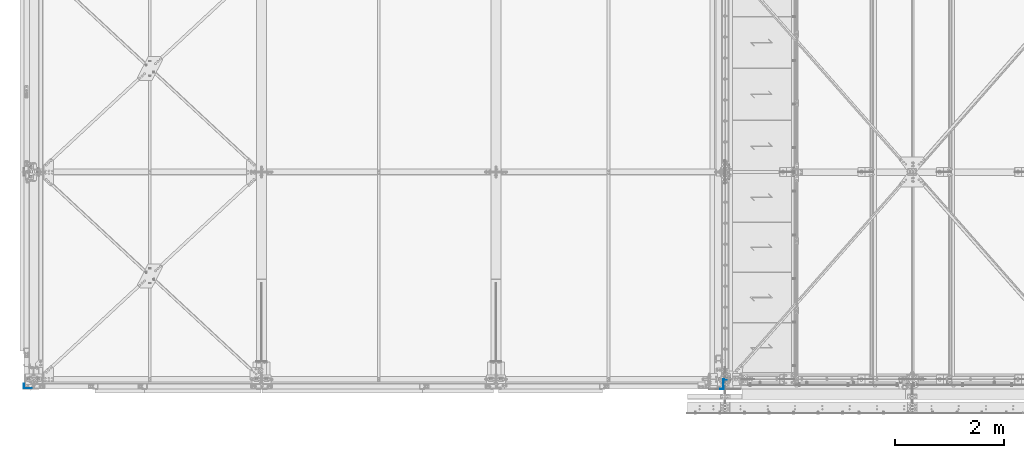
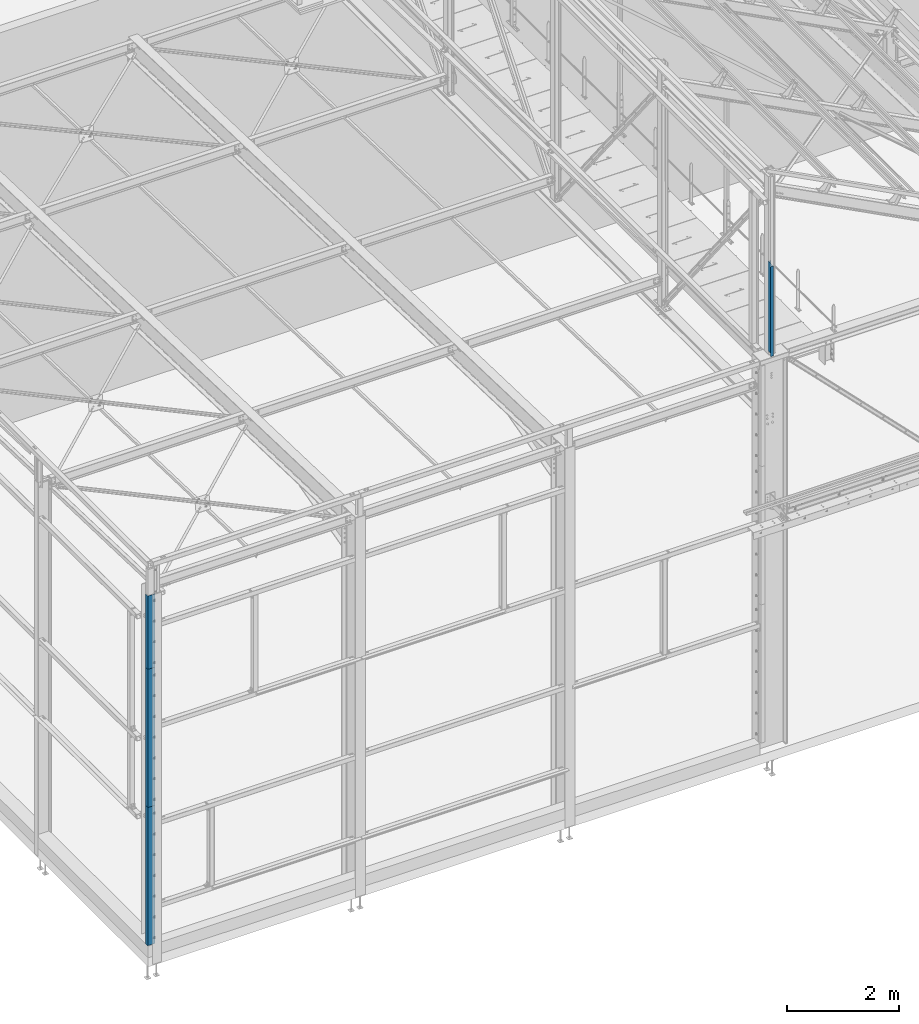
# One storey, part 341 of 362: 4 beams, 4 elements without a shape of their own.
"""IFC2X3 building model written with IfcOpenShell, lengths in millimetres."""

from ifc_helpers import new_model, si_unit, frame, origin_with_axes, place, context, subcontext, project, spatial, faceted_brep, material, type_object, element, aggregate, save


model = new_model("IFC2X3")

# Units and contexts
model_context = context("Model", 3, precision=1e-05, world=origin_with_axes())
body_context = subcontext(model_context, "Body", "Model", "MODEL_VIEW")
ifc_project = project(units=[si_unit("LENGTHUNIT", "METRE", prefix="MILLI"), si_unit("AREAUNIT", "SQUARE_METRE"), si_unit("VOLUMEUNIT", "CUBIC_METRE"), si_unit("MASSUNIT", "GRAM", prefix="KILO"), si_unit("TIMEUNIT", "SECOND"), si_unit("PLANEANGLEUNIT", "RADIAN"), si_unit("SOLIDANGLEUNIT", "STERADIAN"), si_unit("THERMODYNAMICTEMPERATUREUNIT", "DEGREE_CELSIUS"), si_unit("LUMINOUSINTENSITYUNIT", "LUMEN")], contexts=[model_context])

# Site, building, storey
site_placement = place(None, origin_with_axes())
site = spatial("IfcSite", under=ifc_project, at=site_placement, Name="Undefined", CompositionType="ELEMENT")
building_placement = place(site_placement, origin_with_axes())
building = spatial("IfcBuilding", under=site, at=building_placement, Name="Undefined", CompositionType="ELEMENT")
storey_placement = place(building_placement, origin_with_axes())
storey = spatial("IfcBuildingStorey", under=building, at=storey_placement, Name="Undefined", CompositionType="ELEMENT", Elevation=0.0)

# Assembly, beam
assembly_1_placement = place(storey_placement, origin_with_axes())
assembly_1 = element("IfcElementAssembly", 1, at=assembly_1_placement, inside=storey, AssemblyPlace="NOTDEFINED", PredefinedType="NOTDEFINED")
ifc_material = material(Name="Undefined/S235-E24")
beam_type_1 = type_object("IfcBeamType", Name="PL5*3000", PredefinedType="NOTDEFINED")
beam_1_placement = place(assembly_1_placement, frame((-29.9998850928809, -163.995381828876, 4750.00001551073), z_axis=(0.0, 0.0, 1.0), x_axis=(-1.0, 0.0, 0.0)))
beam_1 = element("IfcBeam", 2, at=beam_1_placement, type_object=beam_type_1, material=ifc_material, Name="FEUILLURE", ObjectType="PL5*3000", context=body_context, shape_type="Brep", body=[
    faceted_brep([(-1.04046193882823e-09, -2.5, -1500.0), (-1.04046193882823e-09, -2.5, 1500.0), (1.04409991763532e-09, 2.5, 1500.0), (1.04409991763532e-09, 2.5, -1500.0), (150.000030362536, 2.49999991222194, 1499.99999999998), (150.000030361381, 2.49999991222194, -1500.00000000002), (145.000030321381, -2.5000000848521, -1500.00000000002), (145.000030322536, -2.5000000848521, 1499.99999999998), (150.000029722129, -77.5000010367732, 1499.99999999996), (150.000029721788, -77.5000010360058, -1500.00000000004), (145.000029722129, -77.5000009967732, 1499.99999999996), (145.000029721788, -77.5000009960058, -1500.00000000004)], [[[0, 1, 2, 3]], [[3, 2, 4, 5]], [[1, 0, 6, 7]], [[5, 4, 8, 9]], [[4, 2, 1, 7, 10, 8]], [[7, 6, 11, 10]], [[6, 0, 3, 5, 9, 11]], [[10, 11, 9, 8]]]),
])
aggregate(assembly_1, [beam_1])

assembly_2_placement = place(storey_placement, origin_with_axes())
assembly_2 = element("IfcElementAssembly", 3, at=assembly_2_placement, inside=storey, AssemblyPlace="NOTDEFINED", PredefinedType="NOTDEFINED")
beam_2_placement = place(assembly_2_placement, frame((-29.9998851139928, -163.995385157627, 1750.00000008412), z_axis=(0.0, 0.0, 1.0), x_axis=(-1.0, 0.0, 0.0)))
beam_2 = element("IfcBeam", 4, at=beam_2_placement, type_object=beam_type_1, material=ifc_material, Name="FEUILLURE", ObjectType="PL5*3000", context=body_context, shape_type="Brep", body=[
    faceted_brep([(-1.04046193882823e-09, -2.5, -1500.0), (-1.04046193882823e-09, -2.5, 1500.0), (1.04409991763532e-09, 2.5, 1500.0), (1.04409991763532e-09, 2.5, -1500.0), (150.000030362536, 2.49999991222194, 1499.99999999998), (150.000030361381, 2.49999991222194, -1500.00000000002), (145.000030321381, -2.5000000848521, -1500.00000000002), (145.000030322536, -2.5000000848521, 1499.99999999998), (150.000029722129, -77.5000010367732, 1499.99999999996), (150.000029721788, -77.5000010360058, -1500.00000000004), (145.000029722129, -77.5000009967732, 1499.99999999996), (145.000029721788, -77.5000009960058, -1500.00000000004)], [[[0, 1, 2, 3]], [[3, 2, 4, 5]], [[1, 0, 6, 7]], [[5, 4, 8, 9]], [[4, 2, 1, 7, 10, 8]], [[7, 6, 11, 10]], [[6, 0, 3, 5, 9, 11]], [[10, 11, 9, 8]]]),
])
aggregate(assembly_2, [beam_2])

assembly_3_placement = place(storey_placement, origin_with_axes())
assembly_3 = element("IfcElementAssembly", 5, at=assembly_3_placement, inside=storey, AssemblyPlace="NOTDEFINED", PredefinedType="NOTDEFINED")
beam_type_2 = type_object("IfcBeamType", Name="PL3*1950", PredefinedType="NOTDEFINED")
beam_3_placement = place(assembly_3_placement, frame((12710.0000002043, -4.25, 9545.0000000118), z_axis=(0.0, 0.0, 1.0), x_axis=(-1.0, 0.0, 0.0)))
beam_3 = element("IfcBeam", 6, at=beam_3_placement, type_object=beam_type_2, material=ifc_material, Name="FEUILLURE", ObjectType="PL3*1950", context=body_context, shape_type="Brep", body=[
    faceted_brep([(0.0, -1.5, -975.0), (0.0, -1.5, 975.0), (0.0, 1.5, 975.0), (0.0, 1.5, -975.0), (56.9999998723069, 1.5, 975.0), (56.9999998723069, 1.5, -975.0), (59.9999998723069, -1.5, -975.0), (59.9999998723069, -1.5, 975.0), (56.9999998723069, 175.75, 975.0), (56.9999998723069, 175.75, -975.0), (59.9999998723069, 172.75, -975.0), (59.9999998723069, 172.75, 975.0), (117.0, 175.75, 975.0), (117.0, 175.75, -975.0), (117.0, 172.75, 975.0), (117.0, 172.75, -975.0)], [[[0, 1, 2, 3]], [[3, 2, 4, 5]], [[1, 0, 6, 7]], [[5, 4, 8, 9]], [[7, 6, 10, 11]], [[9, 8, 12, 13]], [[8, 4, 2, 1, 7, 11, 14, 12]], [[11, 10, 15, 14]], [[10, 6, 0, 3, 5, 9, 13, 15]], [[14, 15, 13, 12]]]),
])
aggregate(assembly_3, [beam_3])

assembly_4_placement = place(storey_placement, origin_with_axes())
assembly_4 = element("IfcElementAssembly", 7, at=assembly_4_placement, inside=storey, AssemblyPlace="NOTDEFINED", PredefinedType="NOTDEFINED")
beam_type_3 = type_object("IfcBeamType", Name="PL5*1590", PredefinedType="NOTDEFINED")
beam_4_placement = place(assembly_4_placement, frame((-29.9998850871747, -163.995380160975, 7045.00003093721), z_axis=(0.0, 0.0, 1.0), x_axis=(-1.0, 0.0, 0.0)))
beam_4 = element("IfcBeam", 8, at=beam_4_placement, type_object=beam_type_3, material=ifc_material, Name="FEUILLURE", ObjectType="PL5*1590", context=body_context, shape_type="Brep", body=[
    faceted_brep([(1.03213437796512e-09, -2.5, -795.0), (1.04193986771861e-09, -2.5, 795.0), (-1.03212727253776e-09, 2.5, 795.0), (-1.04193276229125e-09, 2.5, -795.0), (150.000030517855, 2.50000006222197, 794.999999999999), (150.000030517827, 2.50000006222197, -795.000000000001), (145.000030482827, -2.4999999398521, -795.000000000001), (145.000030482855, -2.4999999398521, 794.999999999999), (150.00002995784, -77.5000010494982, 794.999999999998), (150.00002995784, -77.5000010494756, -795.000000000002), (145.00002995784, -77.5000010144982, 794.999999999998), (145.00002995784, -77.5000010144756, -795.000000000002)], [[[0, 1, 2, 3]], [[3, 2, 4, 5]], [[1, 0, 6, 7]], [[5, 4, 8, 9]], [[4, 2, 1, 7, 10, 8]], [[7, 6, 11, 10]], [[6, 0, 3, 5, 9, 11]], [[10, 11, 9, 8]]]),
])
aggregate(assembly_4, [beam_4])

save(model, "model.ifc")
